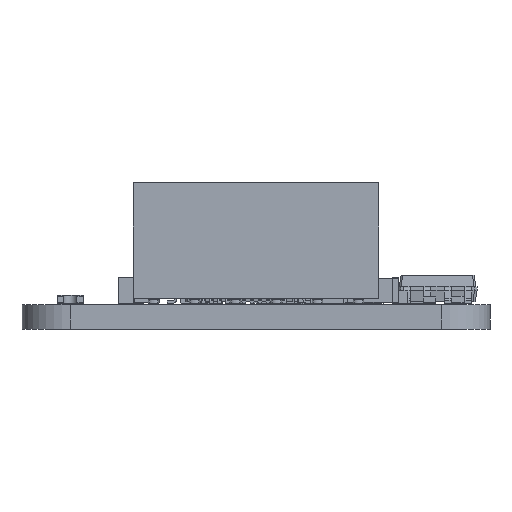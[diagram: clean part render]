
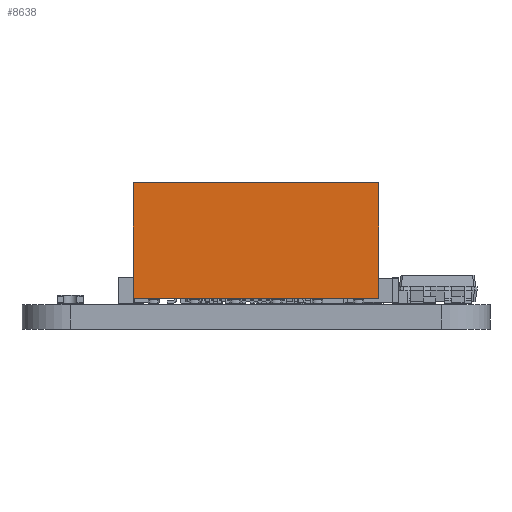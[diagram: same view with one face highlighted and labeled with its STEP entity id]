
A CAD part, left-side view. The second image highlights one B-rep face of the part: STEP entity #8638.
In plain terms, the highlighted planar face has unit normal (-1, 0, 0).
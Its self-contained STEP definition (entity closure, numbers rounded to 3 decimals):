
#7215 = VERTEX_POINT('',#7216);
#7216 = CARTESIAN_POINT('',(-2.54,-7.62,0.32));
#7224 = EDGE_CURVE('',#7215,#7225,#7227,.T.);
#7225 = VERTEX_POINT('',#7226);
#7226 = CARTESIAN_POINT('',(-2.54,-7.62,7.47));
#7227 = LINE('',#7228,#7229);
#7228 = CARTESIAN_POINT('',(-2.54,-7.62,0.32));
#7229 = VECTOR('',#7230,1.);
#7230 = DIRECTION('',(0.,0.,1.));
#7287 = VERTEX_POINT('',#7288);
#7288 = CARTESIAN_POINT('',(-2.54,7.62,7.47));
#7294 = EDGE_CURVE('',#7295,#7287,#7297,.T.);
#7295 = VERTEX_POINT('',#7296);
#7296 = CARTESIAN_POINT('',(-2.54,7.62,0.32));
#7297 = LINE('',#7298,#7299);
#7298 = CARTESIAN_POINT('',(-2.54,7.62,0.32));
#7299 = VECTOR('',#7300,1.);
#7300 = DIRECTION('',(0.,0.,1.));
#7359 = EDGE_CURVE('',#7287,#7225,#7360,.T.);
#7360 = LINE('',#7361,#7362);
#7361 = CARTESIAN_POINT('',(-2.54,7.62,7.47));
#7362 = VECTOR('',#7363,1.);
#7363 = DIRECTION('',(0.,-1.,0.));
#7790 = EDGE_CURVE('',#7295,#7215,#7791,.T.);
#7791 = LINE('',#7792,#7793);
#7792 = CARTESIAN_POINT('',(-2.54,7.62,0.32));
#7793 = VECTOR('',#7794,1.);
#7794 = DIRECTION('',(0.,-1.,0.));
#8638 = ADVANCED_FACE('',(#8639),#8645,.F.);
#8639 = FACE_BOUND('',#8640,.F.);
#8640 = EDGE_LOOP('',(#8641,#8642,#8643,#8644));
#8641 = ORIENTED_EDGE('',*,*,#7294,.T.);
#8642 = ORIENTED_EDGE('',*,*,#7359,.T.);
#8643 = ORIENTED_EDGE('',*,*,#7224,.F.);
#8644 = ORIENTED_EDGE('',*,*,#7790,.F.);
#8645 = PLANE('',#8646);
#8646 = AXIS2_PLACEMENT_3D('',#8647,#8648,#8649);
#8647 = CARTESIAN_POINT('',(-2.54,7.62,0.32));
#8648 = DIRECTION('',(1.,0.,0.));
#8649 = DIRECTION('',(0.,-1.,0.));
